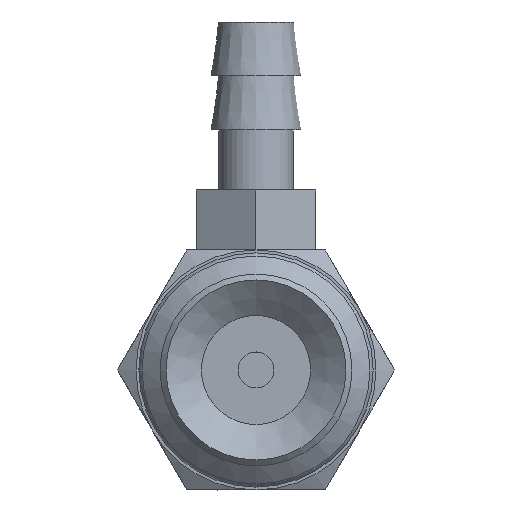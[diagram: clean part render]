
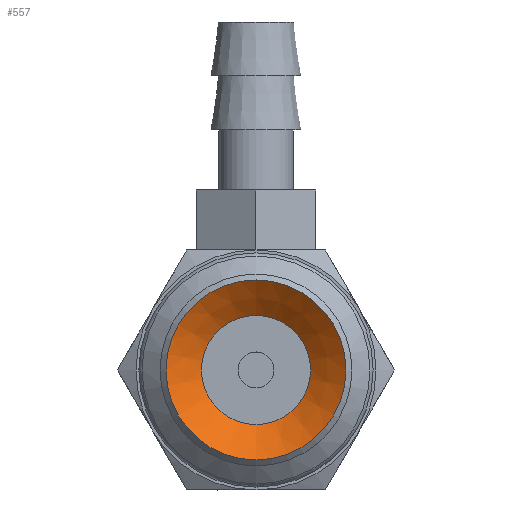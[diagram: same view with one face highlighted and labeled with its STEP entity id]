
A CAD part, front view. The second image highlights one B-rep face of the part: STEP entity #557.
In plain terms, the highlighted conical face has half-angle 52 degrees and reference radius 1.82 mm.
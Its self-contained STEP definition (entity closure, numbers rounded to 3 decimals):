
#557=ADVANCED_FACE('',(#834,#835),#836,.F.);
#834=FACE_BOUND('',#1158,.T.);
#835=FACE_OUTER_BOUND('',#1159,.T.);
#836=CONICAL_SURFACE('',#1160,1.82,0.908);
#1158=EDGE_LOOP('',(#1905));
#1159=EDGE_LOOP('',(#1906));
#1160=AXIS2_PLACEMENT_3D('',#1907,#1908,#1909);
#1905=ORIENTED_EDGE('',*,*,#2248,.F.);
#1906=ORIENTED_EDGE('',*,*,#2250,.T.);
#1907=CARTESIAN_POINT('',(0.0,6.889,0.0));
#1908=DIRECTION('',(-0.0,-1.0,0.));
#1909=DIRECTION('',(0.0,0.,-1.0));
#2248=EDGE_CURVE('',#2597,#2597,#2598,.T.);
#2250=EDGE_CURVE('',#2601,#2601,#2602,.T.);
#2597=VERTEX_POINT('',#3349);
#2598=CIRCLE('',#3350,1.82);
#2601=VERTEX_POINT('',#3353);
#2602=CIRCLE('',#3354,3.0);
#3349=CARTESIAN_POINT('',(0.0,6.889,-1.82));
#3350=AXIS2_PLACEMENT_3D('',#3715,#3716,#3717);
#3353=CARTESIAN_POINT('',(0.0,5.967,-3.0));
#3354=AXIS2_PLACEMENT_3D('',#3721,#3722,#3723);
#3715=CARTESIAN_POINT('',(0.0,6.889,0.0));
#3716=DIRECTION('',(0.0,-1.0,0.));
#3717=DIRECTION('',(0.0,0.,-1.0));
#3721=CARTESIAN_POINT('',(0.0,5.967,0.0));
#3722=DIRECTION('',(0.0,-1.0,0.));
#3723=DIRECTION('',(0.0,0.,-1.0));
